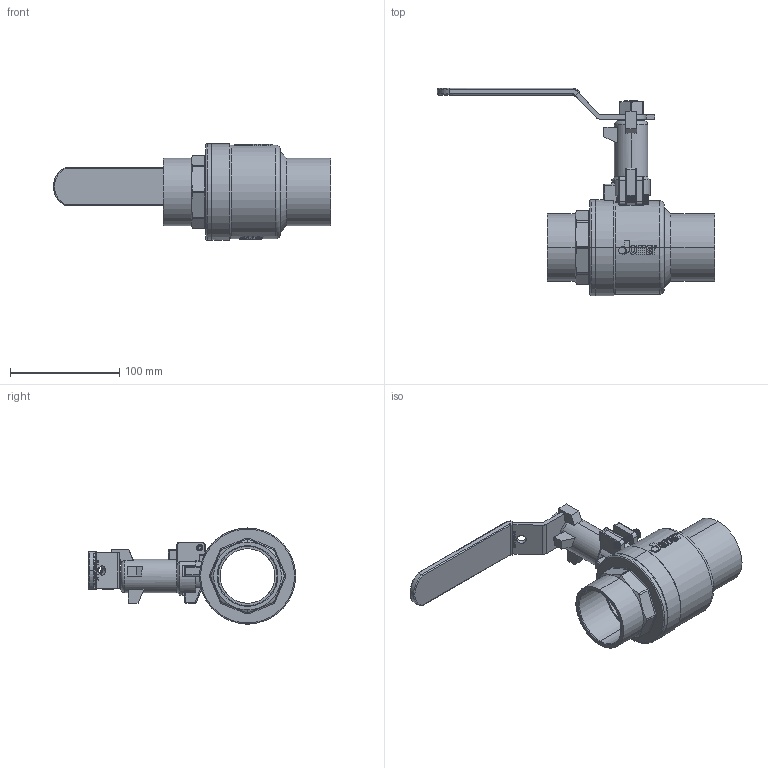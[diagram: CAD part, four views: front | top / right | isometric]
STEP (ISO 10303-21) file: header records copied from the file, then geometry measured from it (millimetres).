
FILE_DESCRIPTION (( 'STEP AP203' ), '1' );
FILE_NAME ('DN50-JOMAR增高套筒估價圖-CxC無掛鎖.STEP', '2024-04-09T08:29:47', ( '' ), ( '' ), 'SwSTEP 2.0', 'SolidWorks 2018', '' );
FILE_SCHEMA (( 'CONFIG_CONTROL_DESIGN' ));
Length unit declared in the file: millimetre
Products named in the file (17): DN50-PIPE 2; GBL218; DN50-白鐵中心栓; BBL718A-2''''JOMAR球閥-CxC帽蓋-無鉛-端面無插溝; DN50-牙套; EBL308; SCREW-M5內六角-25L; NBL268; DN50-JOMAR增高套筒估價圖-CxC無掛鎖; TBL269; BBL718-2''''JOMAR球閥體-CxC-無鉛-端面無插溝; CBL238; EBL208C; DN50-CBL238白色膠套-S-200CSSG; EBL208B; DN40-DN50-CBL717-無掛鎖把手組合-白色膠套 S-200CSSG; RBL267
Assembly tree (18 placements, depth 3):
  DN50-JOMAR增高套筒估價圖-CxC無掛鎖
    BBL718-2''''JOMAR球閥體-CxC-無鉛-端面無插溝
    EBL208C
    EBL208B
    RBL267
    GBL218
    BBL718A-2''''JOMAR球閥-CxC帽蓋-無鉛-端面無插溝
    EBL308  x2
    NBL268
    TBL269
    DN40-DN50-CBL717-無掛鎖把手組合-白色膠套 S-200CSSG
      CBL238
      DN50-CBL238白色膠套-S-200CSSG
    DN50-CBL238白色膠套-S-200CSSG
    DN50-PIPE 2
    DN50-白鐵中心栓
    DN50-牙套
    SCREW-M5內六角-25L
Bounding box: 253.9 x 189.71 x 88 mm (x, y, z)
Volume: 401692.1 mm3; surface area: 215678.5 mm2
Topology: 17 solids, 17 shells, 4272 faces, 11557 edges, 7632 vertices
Faces by surface type: plane 2214, bspline 1177, cylinder 635, cone 169, torus 63, sphere 14
Entity records: 186215 total; most frequent: CARTESIAN_POINT 119478, ORIENTED_EDGE 15472, DIRECTION 10493, EDGE_CURVE 7736, VERTEX_POINT 5097, LINE 4171, VECTOR 4171, AXIS2_PLACEMENT_3D 3161
